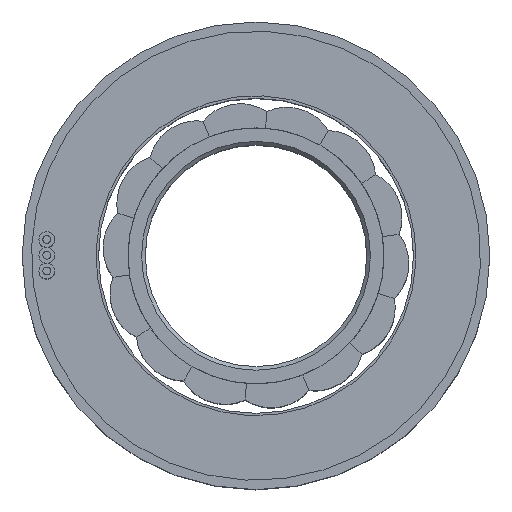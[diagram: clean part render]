
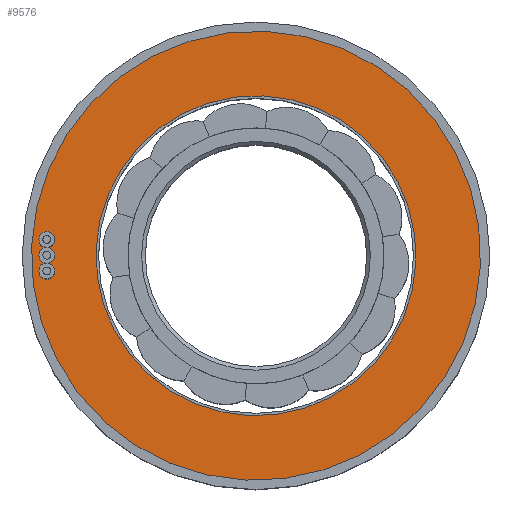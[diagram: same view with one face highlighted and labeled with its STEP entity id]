
A CAD part, top view. The second image highlights one B-rep face of the part: STEP entity #9576.
In plain terms, the highlighted planar face has unit normal (0, 0, 1).
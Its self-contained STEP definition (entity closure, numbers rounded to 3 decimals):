
#465 = CARTESIAN_POINT ( 'NONE',  ( -9.844, -15.367, 19.8 ) ) ;
#532 = ORIENTED_EDGE ( 'NONE', *, *, #11410, .F. ) ;
#1005 = FACE_BOUND ( 'NONE', #2039, .T. ) ;
#2039 = EDGE_LOOP ( 'NONE', ( #532 ) ) ;
#3027 = CARTESIAN_POINT ( 'NONE',  ( 0., 0., 19.8 ) ) ;
#4808 = AXIS2_PLACEMENT_3D ( 'NONE', #18655, #19058, #5244 ) ;
#4896 = ORIENTED_EDGE ( 'NONE', *, *, #16969, .T. ) ;
#5244 = DIRECTION ( 'NONE',  ( -0.539, -0.842, 0. ) ) ;
#7280 = FACE_OUTER_BOUND ( 'NONE', #17951, .T. ) ;
#7771 = DIRECTION ( 'NONE',  ( -0.539, -0.842, 0. ) ) ;
#8018 = CIRCLE ( 'NONE', #4808, 18.25 ) ;
#8447 = CARTESIAN_POINT ( 'NONE',  ( 0., 0., 19.8 ) ) ;
#9576 = ADVANCED_FACE ( 'NONE', ( #7280, #1005 ), #16257, .T. ) ;
#11410 = EDGE_CURVE ( 'NONE', #17252, #17252, #19950, .T. ) ;
#11628 = AXIS2_PLACEMENT_3D ( 'NONE', #8447, #19228, #11714 ) ;
#11714 = DIRECTION ( 'NONE',  ( -0.539, -0.842, 0. ) ) ;
#13103 = VERTEX_POINT ( 'NONE', #465 ) ;
#15247 = DIRECTION ( 'NONE',  ( 0., 0., 1. ) ) ;
#15729 = AXIS2_PLACEMENT_3D ( 'NONE', #3027, #15247, #7771 ) ;
#15730 = CARTESIAN_POINT ( 'NONE',  ( -7.012, -10.947, 19.8 ) ) ;
#16257 = PLANE ( 'NONE',  #15729 ) ;
#16969 = EDGE_CURVE ( 'NONE', #13103, #13103, #8018, .T. ) ;
#17252 = VERTEX_POINT ( 'NONE', #15730 ) ;
#17951 = EDGE_LOOP ( 'NONE', ( #4896 ) ) ;
#18655 = CARTESIAN_POINT ( 'NONE',  ( 0., 0., 19.8 ) ) ;
#19058 = DIRECTION ( 'NONE',  ( 0., 0., 1. ) ) ;
#19228 = DIRECTION ( 'NONE',  ( 0., 0., 1. ) ) ;
#19950 = CIRCLE ( 'NONE', #11628, 13. ) ;
